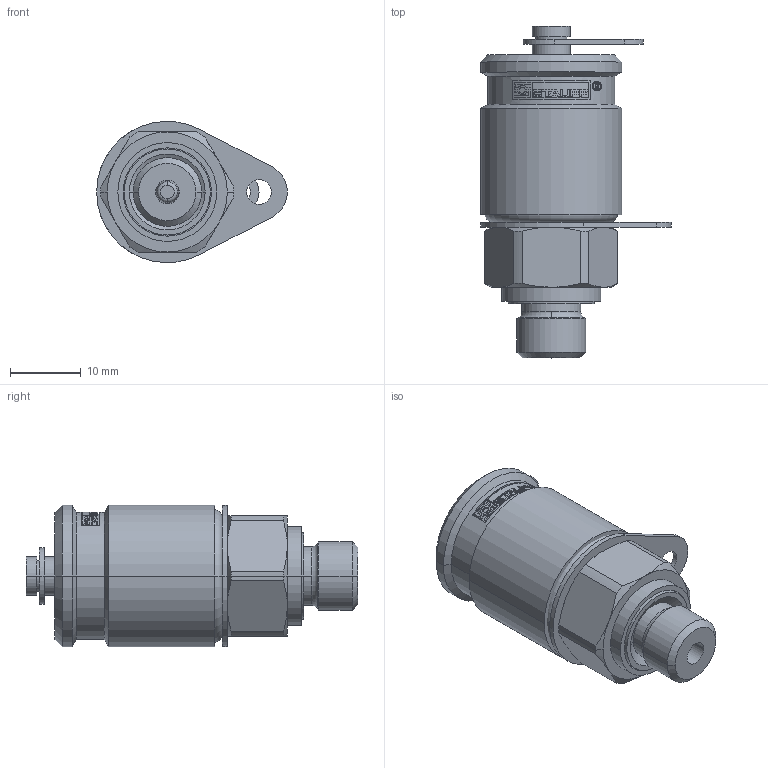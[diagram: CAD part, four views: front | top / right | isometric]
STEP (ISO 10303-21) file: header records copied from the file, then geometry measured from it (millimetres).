
FILE_DESCRIPTION(('STEP AP214'),'1');
FILE_NAME('smk20-g1_8-pc.stp','2026-03-14T03:02:33',('TraceParts'),('TraceParts S.A.S.'),'Spatial InterOp 3D',' ',' ');
FILE_SCHEMA(('AUTOMOTIVE_DESIGN { 1 0 10303 214 1 1 1 1 }'));
Length unit declared in the file: millimetre
Products named in the file (1): 1
Bounding box: 27 x 47 x 20 mm (x, y, z)
Volume: 9951.9 mm3; surface area: 6779.4 mm2
Topology: 6 solids, 6 shells, 305 faces, 760 edges, 491 vertices
Faces by surface type: cylinder 132, plane 127, cone 38, torus 8
Entity records: 10110 total; most frequent: CARTESIAN_POINT 2782, DIRECTION 1549, ORIENTED_EDGE 1520, EDGE_CURVE 760, AXIS2_PLACEMENT_3D 612, VERTEX_POINT 491, EDGE_LOOP 343, LINE 325
